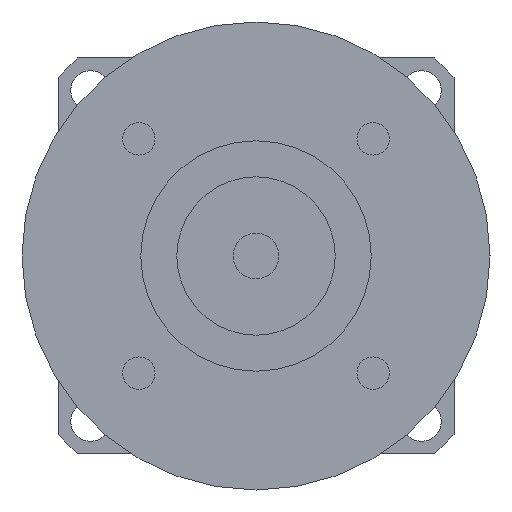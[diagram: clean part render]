
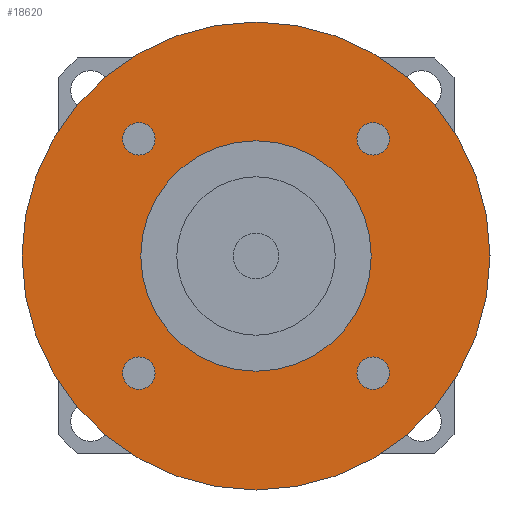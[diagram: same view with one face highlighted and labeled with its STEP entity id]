
A CAD part, left-side view. The second image highlights one B-rep face of the part: STEP entity #18620.
In plain terms, the highlighted planar face has unit normal (-1, 0, 0) as drawn and (0, 0, -1) by its records, which use the part's own axes.
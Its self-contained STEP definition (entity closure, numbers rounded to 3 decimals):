
#11050=CARTESIAN_POINT('',(0.,0.,
-58.));
#11060=DIRECTION('',(0.,0.,1.));
#11070=DIRECTION('',(0.,-1.,0.));
#11080=AXIS2_PLACEMENT_3D('',#11050,#11060,#11070);
#11090=CIRCLE('',#11080,16.);
#11100=CARTESIAN_POINT('',(0.,-16.,-58.));
#11110=VERTEX_POINT('',#11100);
#11120=CARTESIAN_POINT('',(16.,0.,-58.));
#11130=VERTEX_POINT('',#11120);
#11140=EDGE_CURVE('',#11110,#11130,#11090,.T.);
#11370=CARTESIAN_POINT('',(-16.,0.,-58.));
#11380=VERTEX_POINT('',#11370);
#11410=EDGE_CURVE('',#11380,#11110,#11090,.T.);
#12740=CARTESIAN_POINT('',(-14.013,-16.263,-58.));
#12750=VERTEX_POINT('',#12740);
#12930=CARTESIAN_POINT('',(-18.513,-16.263,-58.));
#12940=VERTEX_POINT('',#12930);
#12970=CARTESIAN_POINT('',(-16.263,-16.263,-58.));
#12980=DIRECTION('',(0.,0.,-1.));
#12990=DIRECTION('',(0.,-1.,0.));
#13000=AXIS2_PLACEMENT_3D('',#12970,#12980,#12990);
#13010=CIRCLE('',#13000,2.25);
#13020=CARTESIAN_POINT('',(-16.263,-18.513,-58.));
#13030=VERTEX_POINT('',#13020);
#13040=EDGE_CURVE('',#13030,#12940,#13010,.T.);
#13060=EDGE_CURVE('',#12750,#13030,#13010,.T.);
#17550=CARTESIAN_POINT('',(32.5,0.,-58.));
#17560=VERTEX_POINT('',#17550);
#17590=CARTESIAN_POINT('',(0.,0.,
-58.));
#17600=DIRECTION('',(0.,0.,1.));
#17610=DIRECTION('',(0.,-1.,0.));
#17620=AXIS2_PLACEMENT_3D('',#17590,#17600,#17610);
#17630=CIRCLE('',#17620,32.5);
#17640=CARTESIAN_POINT('',(0.,-32.5,-58.));
#17650=VERTEX_POINT('',#17640);
#17660=EDGE_CURVE('',#17650,#17560,#17630,.T.);
#17680=CARTESIAN_POINT('',(-32.5,0.,-58.));
#17690=VERTEX_POINT('',#17680);
#17700=EDGE_CURVE('',#17690,#17650,#17630,.T.);
#17820=CARTESIAN_POINT('',(0.,0.,
-58.));
#17830=DIRECTION('',(0.,0.,1.));
#17840=DIRECTION('',(-1.,0.,0.));
#17850=AXIS2_PLACEMENT_3D('',#17820,#17830,#17840);
#17860=PLANE('',#17850);
#17870=CARTESIAN_POINT('',(16.263,-16.263,-58.));
#17880=DIRECTION('',(0.,0.,-1.));
#17890=DIRECTION('',(1.,0.,0.));
#17900=AXIS2_PLACEMENT_3D('',#17870,#17880,#17890);
#17910=CIRCLE('',#17900,2.25);
#17920=CARTESIAN_POINT('',(18.513,-16.263,-58.));
#17930=VERTEX_POINT('',#17920);
#17940=CARTESIAN_POINT('',(16.263,-18.513,-58.));
#17950=VERTEX_POINT('',#17940);
#17960=EDGE_CURVE('',#17930,#17950,#17910,.T.);
#17970=ORIENTED_EDGE('',*,*,#17960,.F.);
#17980=CARTESIAN_POINT('',(16.263,-14.013,-58.));
#17990=VERTEX_POINT('',#17980);
#18000=EDGE_CURVE('',#17950,#17990,#17910,.T.);
#18010=ORIENTED_EDGE('',*,*,#18000,.F.);
#18020=EDGE_CURVE('',#17990,#17930,#17910,.T.);
#18030=ORIENTED_EDGE('',*,*,#18020,.F.);
#18040=EDGE_LOOP('',(#18030,#18010,#17970));
#18050=FACE_BOUND('',#18040,.T.);
#18060=CARTESIAN_POINT('',(16.263,16.263,-58.));
#18070=DIRECTION('',(0.,0.,-1.));
#18080=DIRECTION('',(0.,1.,0.));
#18090=AXIS2_PLACEMENT_3D('',#18060,#18070,#18080);
#18100=CIRCLE('',#18090,2.25);
#18110=CARTESIAN_POINT('',(16.263,18.513,-58.));
#18120=VERTEX_POINT('',#18110);
#18130=CARTESIAN_POINT('',(18.513,16.263,-58.));
#18140=VERTEX_POINT('',#18130);
#18150=EDGE_CURVE('',#18120,#18140,#18100,.T.);
#18160=ORIENTED_EDGE('',*,*,#18150,.F.);
#18170=CARTESIAN_POINT('',(14.013,16.263,-58.));
#18180=VERTEX_POINT('',#18170);
#18190=EDGE_CURVE('',#18140,#18180,#18100,.T.);
#18200=ORIENTED_EDGE('',*,*,#18190,.F.);
#18210=EDGE_CURVE('',#18180,#18120,#18100,.T.);
#18220=ORIENTED_EDGE('',*,*,#18210,.F.);
#18230=EDGE_LOOP('',(#18220,#18200,#18160));
#18240=FACE_BOUND('',#18230,.T.);
#18250=CARTESIAN_POINT('',(-16.263,16.263,-58.));
#18260=DIRECTION('',(0.,0.,-1.));
#18270=DIRECTION('',(-1.,0.,0.));
#18280=AXIS2_PLACEMENT_3D('',#18250,#18260,#18270);
#18290=CIRCLE('',#18280,2.25);
#18300=CARTESIAN_POINT('',(-18.513,16.263,-58.));
#18310=VERTEX_POINT('',#18300);
#18320=CARTESIAN_POINT('',(-16.263,18.513,-58.));
#18330=VERTEX_POINT('',#18320);
#18340=EDGE_CURVE('',#18310,#18330,#18290,.T.);
#18350=ORIENTED_EDGE('',*,*,#18340,.F.);
#18360=CARTESIAN_POINT('',(-16.263,14.013,-58.));
#18370=VERTEX_POINT('',#18360);
#18380=EDGE_CURVE('',#18330,#18370,#18290,.T.);
#18390=ORIENTED_EDGE('',*,*,#18380,.F.);
#18400=EDGE_CURVE('',#18370,#18310,#18290,.T.);
#18410=ORIENTED_EDGE('',*,*,#18400,.F.);
#18420=EDGE_LOOP('',(#18410,#18390,#18350));
#18430=FACE_BOUND('',#18420,.T.);
#18440=ORIENTED_EDGE('',*,*,#13040,.F.);
#18450=EDGE_CURVE('',#12940,#12750,#13010,.T.);
#18460=ORIENTED_EDGE('',*,*,#18450,.F.);
#18470=ORIENTED_EDGE('',*,*,#13060,.F.);
#18480=EDGE_LOOP('',(#18470,#18460,#18440));
#18490=FACE_BOUND('',#18480,.T.);
#18500=ORIENTED_EDGE('',*,*,#17660,.F.);
#18510=EDGE_CURVE('',#17560,#17690,#17630,.T.);
#18520=ORIENTED_EDGE('',*,*,#18510,.F.);
#18530=ORIENTED_EDGE('',*,*,#17700,.F.);
#18540=EDGE_LOOP('',(#18530,#18520,#18500));
#18550=FACE_OUTER_BOUND('',#18540,.T.);
#18560=EDGE_CURVE('',#11130,#11380,#11090,.T.);
#18570=ORIENTED_EDGE('',*,*,#18560,.T.);
#18580=ORIENTED_EDGE('',*,*,#11140,.T.);
#18590=ORIENTED_EDGE('',*,*,#11410,.T.);
#18600=EDGE_LOOP('',(#18590,#18580,#18570));
#18610=FACE_BOUND('',#18600,.T.);
#18620=ADVANCED_FACE('',(#18050,#18240,#18430,#18490,#18550,#18610),
#17860,.F.);
